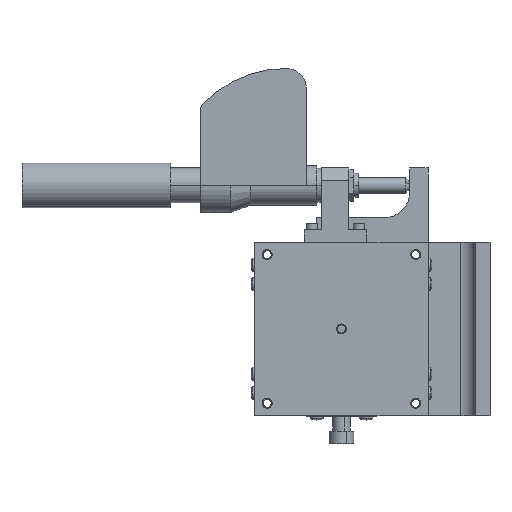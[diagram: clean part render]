
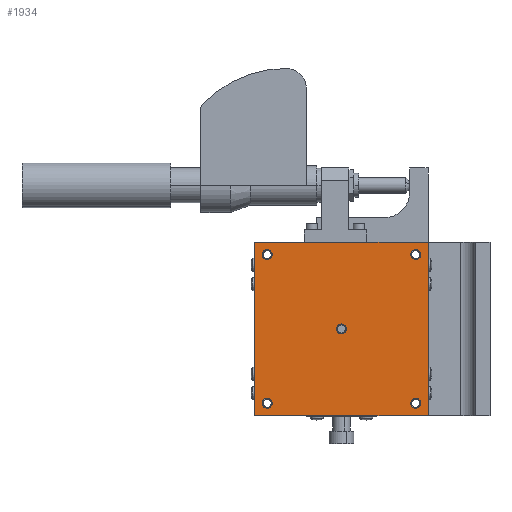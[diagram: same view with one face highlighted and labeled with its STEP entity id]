
A CAD part, left-side view. The second image highlights one B-rep face of the part: STEP entity #1934.
In plain terms, the highlighted planar face has unit normal (-1, 0, 0).
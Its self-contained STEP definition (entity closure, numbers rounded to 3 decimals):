
#1795 = VERTEX_POINT ( 'NONE', #7874 ) ;
#1866 = ORIENTED_EDGE ( 'NONE', *, *, #1867, .F. ) ;
#1867 = EDGE_CURVE ( 'NONE', #6310, #6422, #8119, .T. ) ;
#1910 = EDGE_LOOP ( 'NONE', ( #1866, #1940 ) ) ;
#1911 = EDGE_CURVE ( 'NONE', #6312, #6308, #8183, .T. ) ;
#1912 = EDGE_LOOP ( 'NONE', ( #1918, #1966 ) ) ;
#1918 = ORIENTED_EDGE ( 'NONE', *, *, #1911, .F. ) ;
#1920 = ORIENTED_EDGE ( 'NONE', *, *, #1921, .F. ) ;
#1921 = EDGE_CURVE ( 'NONE', #6439, #6419, #8172, .T. ) ;
#1922 = ORIENTED_EDGE ( 'NONE', *, *, #6438, .F. ) ;
#1923 = ORIENTED_EDGE ( 'NONE', *, *, #1924, .F. ) ;
#1924 = EDGE_CURVE ( 'NONE', #6441, #6445, #8167, .T. ) ;
#1925 = ORIENTED_EDGE ( 'NONE', *, *, #6443, .F. ) ;
#1932 = EDGE_LOOP ( 'NONE', ( #1923, #1925 ) ) ;
#1934 = ADVANCED_FACE ( 'NONE', ( #8214, #8213, #8212, #8211, #8210, #8209 ), #8208, .F. ) ;
#1935 = EDGE_LOOP ( 'NONE', ( #1936, #1937, #1938, #1974 ) ) ;
#1936 = ORIENTED_EDGE ( 'NONE', *, *, #1963, .T. ) ;
#1937 = ORIENTED_EDGE ( 'NONE', *, *, #2012, .F. ) ;
#1938 = ORIENTED_EDGE ( 'NONE', *, *, #1965, .F. ) ;
#1940 = ORIENTED_EDGE ( 'NONE', *, *, #6334, .F. ) ;
#1941 = ORIENTED_EDGE ( 'NONE', *, *, #1942, .F. ) ;
#1942 = EDGE_CURVE ( 'NONE', #6190, #6192, #8203, .T. ) ;
#1943 = EDGE_LOOP ( 'NONE', ( #1920, #1922 ) ) ;
#1963 = EDGE_CURVE ( 'NONE', #1964, #2004, #8246, .T. ) ;
#1964 = VERTEX_POINT ( 'NONE', #8242 ) ;
#1965 = EDGE_CURVE ( 'NONE', #1795, #2010, #8241, .T. ) ;
#1966 = ORIENTED_EDGE ( 'NONE', *, *, #6332, .F. ) ;
#1967 = EDGE_LOOP ( 'NONE', ( #1941, #1968 ) ) ;
#1968 = ORIENTED_EDGE ( 'NONE', *, *, #6202, .F. ) ;
#1974 = ORIENTED_EDGE ( 'NONE', *, *, #1975, .T. ) ;
#1975 = EDGE_CURVE ( 'NONE', #1795, #1964, #8230, .T. ) ;
#2004 = VERTEX_POINT ( 'NONE', #8315 ) ;
#2010 = VERTEX_POINT ( 'NONE', #8308 ) ;
#2012 = EDGE_CURVE ( 'NONE', #2010, #2004, #8307, .T. ) ;
#5215 = CARTESIAN_POINT ( 'NONE',  ( -35., 90., 28. ) ) ;
#5216 = CARTESIAN_POINT ( 'NONE',  ( -35., 90., 32. ) ) ;
#5256 = DIRECTION ( 'NONE',  ( 0., 0., 1. ) ) ;
#5257 = DIRECTION ( 'NONE',  ( -1., 0., 0. ) ) ;
#5258 = AXIS2_PLACEMENT_3D ( 'NONE', #5264, #5257, #5256 ) ;
#5259 = CIRCLE ( 'NONE', #5258, 2. ) ;
#5264 = CARTESIAN_POINT ( 'NONE',  ( -35., 90., 30. ) ) ;
#5481 = CARTESIAN_POINT ( 'NONE',  ( -35., 60., 2. ) ) ;
#5482 = CARTESIAN_POINT ( 'NONE',  ( -35., 90., -28. ) ) ;
#5483 = CARTESIAN_POINT ( 'NONE',  ( -35., 60., -2. ) ) ;
#5490 = DIRECTION ( 'NONE',  ( 0., 0., 1. ) ) ;
#5491 = DIRECTION ( 'NONE',  ( -1., 0., 0. ) ) ;
#5492 = CARTESIAN_POINT ( 'NONE',  ( -35., 90., -30. ) ) ;
#5493 = AXIS2_PLACEMENT_3D ( 'NONE', #5492, #5491, #5490 ) ;
#5499 = CIRCLE ( 'NONE', #5493, 2. ) ;
#5502 = DIRECTION ( 'NONE',  ( 0., 0., 1. ) ) ;
#5503 = DIRECTION ( 'NONE',  ( -1., 0., 0. ) ) ;
#5504 = CARTESIAN_POINT ( 'NONE',  ( -35., 60., 0. ) ) ;
#5505 = AXIS2_PLACEMENT_3D ( 'NONE', #5504, #5503, #5502 ) ;
#5506 = CIRCLE ( 'NONE', #5505, 2. ) ;
#5689 = CARTESIAN_POINT ( 'NONE',  ( -35., 90., -32. ) ) ;
#5691 = CARTESIAN_POINT ( 'NONE',  ( -35., 30., 28. ) ) ;
#5717 = CARTESIAN_POINT ( 'NONE',  ( -35., 30., 32. ) ) ;
#5718 = DIRECTION ( 'NONE',  ( 0., 0., 1. ) ) ;
#5719 = DIRECTION ( 'NONE',  ( -1., 0., 0. ) ) ;
#5720 = CARTESIAN_POINT ( 'NONE',  ( -35., 30., 30. ) ) ;
#5721 = AXIS2_PLACEMENT_3D ( 'NONE', #5720, #5719, #5718 ) ;
#5722 = CIRCLE ( 'NONE', #5721, 2. ) ;
#5766 = CARTESIAN_POINT ( 'NONE',  ( -35., 30., -32. ) ) ;
#5767 = DIRECTION ( 'NONE',  ( 0., 0., 1. ) ) ;
#5768 = DIRECTION ( 'NONE',  ( -1., 0., 0. ) ) ;
#5769 = CARTESIAN_POINT ( 'NONE',  ( -35., 30., -30. ) ) ;
#5770 = AXIS2_PLACEMENT_3D ( 'NONE', #5769, #5768, #5767 ) ;
#5771 = CIRCLE ( 'NONE', #5770, 2. ) ;
#5772 = CARTESIAN_POINT ( 'NONE',  ( -35., 30., -28. ) ) ;
#6190 = VERTEX_POINT ( 'NONE', #5216 ) ;
#6192 = VERTEX_POINT ( 'NONE', #5215 ) ;
#6202 = EDGE_CURVE ( 'NONE', #6192, #6190, #5259, .T. ) ;
#6308 = VERTEX_POINT ( 'NONE', #5483 ) ;
#6310 = VERTEX_POINT ( 'NONE', #5482 ) ;
#6312 = VERTEX_POINT ( 'NONE', #5481 ) ;
#6332 = EDGE_CURVE ( 'NONE', #6308, #6312, #5506, .T. ) ;
#6334 = EDGE_CURVE ( 'NONE', #6422, #6310, #5499, .T. ) ;
#6419 = VERTEX_POINT ( 'NONE', #5691 ) ;
#6422 = VERTEX_POINT ( 'NONE', #5689 ) ;
#6438 = EDGE_CURVE ( 'NONE', #6419, #6439, #5722, .T. ) ;
#6439 = VERTEX_POINT ( 'NONE', #5717 ) ;
#6441 = VERTEX_POINT ( 'NONE', #5772 ) ;
#6443 = EDGE_CURVE ( 'NONE', #6445, #6441, #5771, .T. ) ;
#6445 = VERTEX_POINT ( 'NONE', #5766 ) ;
#7864 = VECTOR ( 'NONE', #8290, 1000. ) ;
#7874 = CARTESIAN_POINT ( 'NONE',  ( -35., 95., -35. ) ) ;
#8115 = DIRECTION ( 'NONE',  ( 0., 0., 1. ) ) ;
#8116 = DIRECTION ( 'NONE',  ( -1., 0., 0. ) ) ;
#8117 = CARTESIAN_POINT ( 'NONE',  ( -35., 90., -30. ) ) ;
#8118 = AXIS2_PLACEMENT_3D ( 'NONE', #8117, #8116, #8115 ) ;
#8119 = CIRCLE ( 'NONE', #8118, 2. ) ;
#8163 = DIRECTION ( 'NONE',  ( 0., 0., 1. ) ) ;
#8164 = DIRECTION ( 'NONE',  ( -1., 0., 0. ) ) ;
#8165 = CARTESIAN_POINT ( 'NONE',  ( -35., 30., -30. ) ) ;
#8166 = AXIS2_PLACEMENT_3D ( 'NONE', #8165, #8164, #8163 ) ;
#8167 = CIRCLE ( 'NONE', #8166, 2. ) ;
#8168 = DIRECTION ( 'NONE',  ( 0., 0., 1. ) ) ;
#8169 = DIRECTION ( 'NONE',  ( -1., 0., 0. ) ) ;
#8170 = CARTESIAN_POINT ( 'NONE',  ( -35., 30., 30. ) ) ;
#8171 = AXIS2_PLACEMENT_3D ( 'NONE', #8170, #8169, #8168 ) ;
#8172 = CIRCLE ( 'NONE', #8171, 2. ) ;
#8179 = DIRECTION ( 'NONE',  ( 0., 0., 1. ) ) ;
#8180 = DIRECTION ( 'NONE',  ( -1., 0., 0. ) ) ;
#8181 = CARTESIAN_POINT ( 'NONE',  ( -35., 60., 0. ) ) ;
#8182 = AXIS2_PLACEMENT_3D ( 'NONE', #8181, #8180, #8179 ) ;
#8183 = CIRCLE ( 'NONE', #8182, 2. ) ;
#8199 = DIRECTION ( 'NONE',  ( 0., 0., 1. ) ) ;
#8200 = DIRECTION ( 'NONE',  ( -1., 0., 0. ) ) ;
#8201 = CARTESIAN_POINT ( 'NONE',  ( -35., 90., 30. ) ) ;
#8202 = AXIS2_PLACEMENT_3D ( 'NONE', #8201, #8200, #8199 ) ;
#8203 = CIRCLE ( 'NONE', #8202, 2. ) ;
#8204 = DIRECTION ( 'NONE',  ( 0., 0., -1. ) ) ;
#8205 = DIRECTION ( 'NONE',  ( 1., 0., 0. ) ) ;
#8206 = CARTESIAN_POINT ( 'NONE',  ( -35., 95., 35. ) ) ;
#8207 = AXIS2_PLACEMENT_3D ( 'NONE', #8206, #8205, #8204 ) ;
#8208 = PLANE ( 'NONE',  #8207 ) ;
#8209 = FACE_OUTER_BOUND ( 'NONE', #1935, .T. ) ;
#8210 = FACE_BOUND ( 'NONE', #1932, .T. ) ;
#8211 = FACE_BOUND ( 'NONE', #1943, .T. ) ;
#8212 = FACE_BOUND ( 'NONE', #1967, .T. ) ;
#8213 = FACE_BOUND ( 'NONE', #1910, .T. ) ;
#8214 = FACE_BOUND ( 'NONE', #1912, .T. ) ;
#8229 = CARTESIAN_POINT ( 'NONE',  ( -35., 95., -35. ) ) ;
#8230 = LINE ( 'NONE', #8229, #7864 ) ;
#8238 = DIRECTION ( 'NONE',  ( 0., 0., 1. ) ) ;
#8239 = VECTOR ( 'NONE', #8238, 1000. ) ;
#8240 = CARTESIAN_POINT ( 'NONE',  ( -35., 95., 35. ) ) ;
#8241 = LINE ( 'NONE', #8240, #8239 ) ;
#8242 = CARTESIAN_POINT ( 'NONE',  ( -35., 25., -35. ) ) ;
#8243 = DIRECTION ( 'NONE',  ( 0., 0., 1. ) ) ;
#8244 = VECTOR ( 'NONE', #8243, 1000. ) ;
#8245 = CARTESIAN_POINT ( 'NONE',  ( -35., 25., 35. ) ) ;
#8246 = LINE ( 'NONE', #8245, #8244 ) ;
#8290 = DIRECTION ( 'NONE',  ( 0., -1., 0. ) ) ;
#8304 = DIRECTION ( 'NONE',  ( 0., -1., 0. ) ) ;
#8305 = VECTOR ( 'NONE', #8304, 1000. ) ;
#8306 = CARTESIAN_POINT ( 'NONE',  ( -35., 95., 35. ) ) ;
#8307 = LINE ( 'NONE', #8306, #8305 ) ;
#8308 = CARTESIAN_POINT ( 'NONE',  ( -35., 95., 35. ) ) ;
#8315 = CARTESIAN_POINT ( 'NONE',  ( -35., 25., 35. ) ) ;
